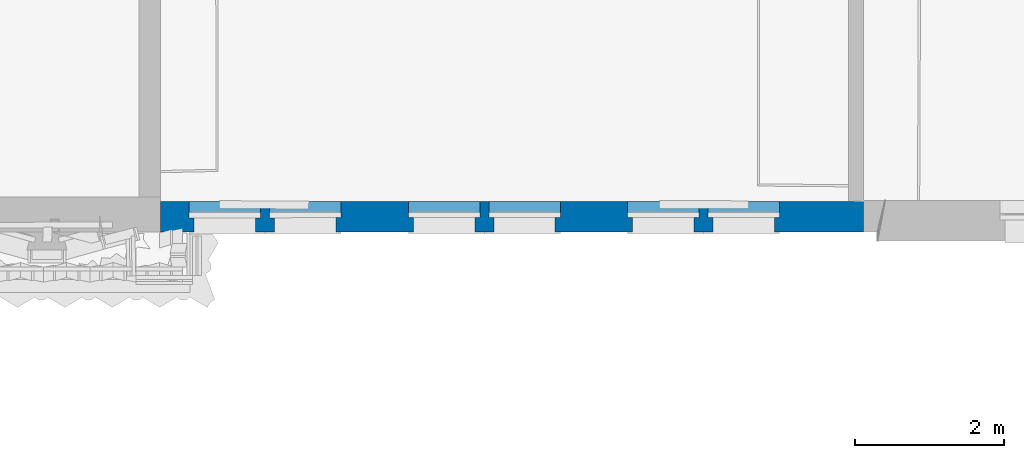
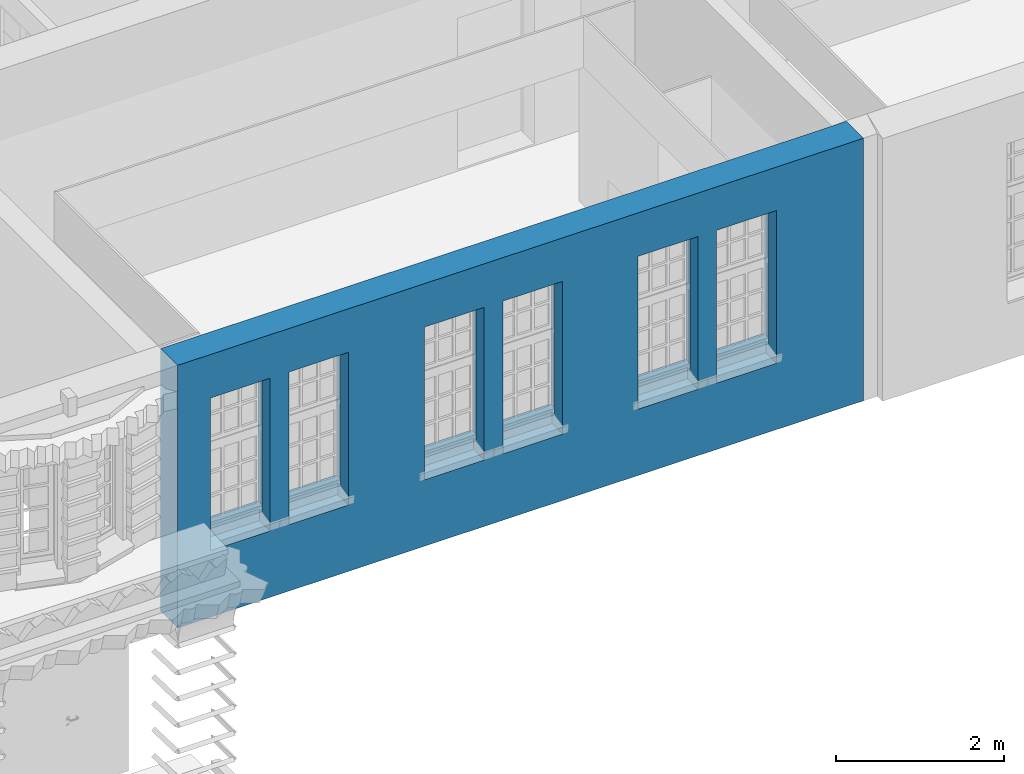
# One storey, part 29 of 158: 1 wall, 9 openings.
"""IFC2X3 building model written with IfcOpenShell, lengths in metres."""

from ifc_helpers import new_model, entity, si_unit, converted_unit, derived_unit, money_unit, direction, frame, origin_with_axes, origin_2d_with_axis, place, context, subcontext, project, spatial, polyline, rectangle, outline, extrude, material, layer, layer_set, layer_usage, type_object, element, save


model = new_model("IFC2X3")

# Units and contexts
model_context = context("Model", 3, precision=1e-05, world=origin_with_axes(), true_north=direction((0.0, 1.0)))
body_context = subcontext(model_context, "Body", "Model", "MODEL_VIEW")
ifc_project = project(units=[si_unit("LENGTHUNIT", "METRE"), si_unit("AREAUNIT", "SQUARE_METRE"), si_unit("VOLUMEUNIT", "CUBIC_METRE"), converted_unit("PLANEANGLEUNIT", "DEGREE", entity("IfcPlaneAngleMeasure", 0.0174532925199), si_unit("PLANEANGLEUNIT", "RADIAN"), dimensions=[0, 0, 0, 0, 0, 0, 0]), money_unit("EUR"), converted_unit("TIMEUNIT", "Year", entity("IfcTimeMeasure", 31556926.0), si_unit("TIMEUNIT", "SECOND"), dimensions=[0, 0, 1, 0, 0, 0, 0]), si_unit("MASSUNIT", "GRAM", prefix="KILO"), si_unit("THERMODYNAMICTEMPERATUREUNIT", "DEGREE_CELSIUS"), si_unit("LUMINOUSINTENSITYUNIT", "LUMEN"), si_unit("ENERGYUNIT", "JOULE", prefix="MEGA"), derived_unit("THERMALCONDUCTANCEUNIT", [(si_unit("POWERUNIT", "WATT"), 1), (si_unit("LENGTHUNIT", "METRE"), -1), (si_unit("THERMODYNAMICTEMPERATUREUNIT", "KELVIN"), -1)]), derived_unit("SPECIFICHEATCAPACITYUNIT", [(si_unit("ENERGYUNIT", "JOULE"), 1), (si_unit("MASSUNIT", "GRAM", prefix="KILO"), -1), (si_unit("THERMODYNAMICTEMPERATUREUNIT", "KELVIN"), -1)]), derived_unit("MASSDENSITYUNIT", [(si_unit("MASSUNIT", "GRAM", prefix="KILO"), 1), (si_unit("VOLUMEUNIT", "CUBIC_METRE"), -1)])], contexts=[model_context])

# Site, building, storey
site_placement = place(None, origin_with_axes())
site = spatial("IfcSite", under=ifc_project, at=site_placement, Name="Gelände", CompositionType="ELEMENT")
building_placement = place(site_placement, origin_with_axes())
building = spatial("IfcBuilding", under=site, at=building_placement, Name="Gebäude", CompositionType="ELEMENT")
storey_placement = place(building_placement, origin_with_axes())
storey = spatial("IfcBuildingStorey", under=building, at=storey_placement, Name="ERDGESCHOSS", CompositionType="ELEMENT", Elevation=0.0)

# Wall, openings
ifc_material = material(Name="05_ALLGEMEIN - TRAGENDE BAUTEILE")
ifc_layer = layer(ifc_material, 0.405, ventilated="UNKNOWN")
ifc_layer_set = layer_set([ifc_layer], Name="05_ALLGEMEIN - TRAGENDE BAUTEILE 0.405")
ifc_layer_usage = layer_usage(ifc_layer_set, "AXIS2", "NEGATIVE", 0.405)
wall_type = type_object("IfcWallType", Name="05_ALLGEMEIN - TRAGENDE BAUTEILE 405", PredefinedType="ELEMENTEDWALL")
wall_placement = place(storey_placement, frame((-5.85691795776, 9.99487104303, -0.21), z_axis=(0.0, 0.0, 1.0), x_axis=(0.999999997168, 7.52624069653e-05, 0.0)))
wall = element("IfcWallStandardCase", 1, at=wall_placement, inside=storey, type_object=wall_type, material=ifc_layer_usage, Name="Wand-030", ObjectType="ELEMENTEDWALL", context=body_context, shape_type="SweptSolid", body=[
    extrude(outline(polyline([(0.0, 0.0), (9.41202264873, 0.0), (9.41202264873, 0.405), (0.0, 0.405), (0.0, 0.0)])), origin_with_axes(), (0.0, 0.0, 1.0), 3.81),
])
opening_1_placement = place(wall_placement, frame((7.26746916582, 0.0, 0.13), z_axis=(0.0, 0.0, 1.0), x_axis=(1.0, 0.0, 0.0)))
element("IfcOpeningElement", 2, at=opening_1_placement, cuts=wall, Name="Fenster-016", ObjectType="Recess", context=body_context, shape_type="SweptSolid", body=[
    extrude(rectangle(XDim=2.09839090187, YDim=0.995594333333, at=origin_2d_with_axis()), frame((0.0, 0.277122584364, 0.497797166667), z_axis=(0.0, -1.0, 0.0), x_axis=(1.0, 0.0, 0.0)), (0.0, 0.0, -1.0), 0.532877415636),
])
opening_2_placement = place(wall_placement, frame((4.34936517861, 0.0, 0.13), z_axis=(0.0, 0.0, 1.0), x_axis=(1.0, 0.0, 0.0)))
element("IfcOpeningElement", 3, at=opening_2_placement, cuts=wall, Name="Fenster-016", ObjectType="Recess", context=body_context, shape_type="SweptSolid", body=[
    extrude(rectangle(XDim=2.09839090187, YDim=0.995594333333, at=origin_2d_with_axis()), frame((0.0, 0.277122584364, 0.497797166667), z_axis=(0.0, -1.0, 0.0), x_axis=(1.0, 0.0, 0.0)), (0.0, 0.0, -1.0), 0.532877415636),
])
opening_3_placement = place(wall_placement, frame((1.38676398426, 0.0, 0.13), z_axis=(0.0, 0.0, 1.0), x_axis=(1.0, 0.0, 0.0)))
element("IfcOpeningElement", 4, at=opening_3_placement, cuts=wall, Name="Fenster-016", ObjectType="Recess", context=body_context, shape_type="SweptSolid", body=[
    extrude(rectangle(XDim=2.09839090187, YDim=0.995594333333, at=origin_2d_with_axis()), frame((0.0, 0.277122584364, 0.497797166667), z_axis=(0.0, -1.0, 0.0), x_axis=(1.0, 0.0, 0.0)), (0.0, 0.0, -1.0), 0.532877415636),
])
opening_4_placement = place(wall_placement, frame((7.80824840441, 0.0, 1.1302125), z_axis=(0.0, 0.0, 1.0), x_axis=(1.0, 0.0, 0.0)))
element("IfcOpeningElement", 5, at=opening_4_placement, cuts=wall, Name="Fenster-015", context=body_context, shape_type="SweptSolid", body=[
    extrude(rectangle(XDim=0.96, YDim=2.118657, at=origin_2d_with_axis()), frame((0.0, 0.19, 1.0593285), z_axis=(0.0, 1.0, 0.0), x_axis=(-1.0, 0.0, 0.0)), (0.0, 0.0, 1.0), 0.62),
    extrude(rectangle(XDim=0.82, YDim=2.048657, at=origin_2d_with_axis()), frame((0.0, 0.19, 1.0243285), z_axis=(0.0, -1.0, 0.0), x_axis=(-1.0, 0.0, 0.0)), (0.0, 0.0, 1.0), 0.595),
    extrude(rectangle(XDim=0.82, YDim=0.167317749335, at=origin_2d_with_axis()), frame((0.0, 0.251042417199, -0.0836588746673), z_axis=(0.0, -1.0, 0.0), x_axis=(-1.0, 0.0, 0.0)), (0.0, 0.0, 1.0), 0.466042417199),
])
opening_5_placement = place(wall_placement, frame((6.73072813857, 0.0, 1.1302125), z_axis=(0.0, 0.0, 1.0), x_axis=(1.0, 0.0, 0.0)))
element("IfcOpeningElement", 6, at=opening_5_placement, cuts=wall, Name="Fenster-015", context=body_context, shape_type="SweptSolid", body=[
    extrude(rectangle(XDim=0.96, YDim=2.118657, at=origin_2d_with_axis()), frame((0.0, 0.19, 1.0593285), z_axis=(0.0, 1.0, 0.0), x_axis=(-1.0, 0.0, 0.0)), (0.0, 0.0, 1.0), 0.62),
    extrude(rectangle(XDim=0.82, YDim=2.048657, at=origin_2d_with_axis()), frame((0.0, 0.19, 1.0243285), z_axis=(0.0, -1.0, 0.0), x_axis=(-1.0, 0.0, 0.0)), (0.0, 0.0, 1.0), 0.595),
    extrude(rectangle(XDim=0.82, YDim=0.167317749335, at=origin_2d_with_axis()), frame((0.0, 0.251042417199, -0.0836588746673), z_axis=(0.0, -1.0, 0.0), x_axis=(-1.0, 0.0, 0.0)), (0.0, 0.0, 1.0), 0.466042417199),
])
opening_6_placement = place(wall_placement, frame((4.87506506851, 0.0, 1.1302125), z_axis=(0.0, 0.0, 1.0), x_axis=(1.0, 0.0, 0.0)))
element("IfcOpeningElement", 7, at=opening_6_placement, cuts=wall, Name="Fenster-015", context=body_context, shape_type="SweptSolid", body=[
    extrude(rectangle(XDim=0.96, YDim=2.118657, at=origin_2d_with_axis()), frame((0.0, 0.19, 1.0593285), z_axis=(0.0, 1.0, 0.0), x_axis=(-1.0, 0.0, 0.0)), (0.0, 0.0, 1.0), 0.62),
    extrude(rectangle(XDim=0.82, YDim=2.048657, at=origin_2d_with_axis()), frame((0.0, 0.19, 1.0243285), z_axis=(0.0, -1.0, 0.0), x_axis=(-1.0, 0.0, 0.0)), (0.0, 0.0, 1.0), 0.595),
    extrude(rectangle(XDim=0.82, YDim=0.167317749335, at=origin_2d_with_axis()), frame((0.0, 0.251042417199, -0.0836588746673), z_axis=(0.0, -1.0, 0.0), x_axis=(-1.0, 0.0, 0.0)), (0.0, 0.0, 1.0), 0.466042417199),
])
opening_7_placement = place(wall_placement, frame((3.79754480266, 0.0, 1.1302125), z_axis=(0.0, 0.0, 1.0), x_axis=(1.0, 0.0, 0.0)))
element("IfcOpeningElement", 8, at=opening_7_placement, cuts=wall, Name="Fenster-015", context=body_context, shape_type="SweptSolid", body=[
    extrude(rectangle(XDim=0.96, YDim=2.118657, at=origin_2d_with_axis()), frame((0.0, 0.19, 1.0593285), z_axis=(0.0, 1.0, 0.0), x_axis=(-1.0, 0.0, 0.0)), (0.0, 0.0, 1.0), 0.62),
    extrude(rectangle(XDim=0.82, YDim=2.048657, at=origin_2d_with_axis()), frame((0.0, 0.19, 1.0243285), z_axis=(0.0, -1.0, 0.0), x_axis=(-1.0, 0.0, 0.0)), (0.0, 0.0, 1.0), 0.595),
    extrude(rectangle(XDim=0.82, YDim=0.167317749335, at=origin_2d_with_axis()), frame((0.0, 0.251042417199, -0.0836588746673), z_axis=(0.0, -1.0, 0.0), x_axis=(-1.0, 0.0, 0.0)), (0.0, 0.0, 1.0), 0.466042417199),
])
opening_8_placement = place(wall_placement, frame((1.93618697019, 0.0, 1.1302125), z_axis=(0.0, 0.0, 1.0), x_axis=(1.0, 0.0, 0.0)))
element("IfcOpeningElement", 9, at=opening_8_placement, cuts=wall, Name="Fenster-015", context=body_context, shape_type="SweptSolid", body=[
    extrude(rectangle(XDim=0.96, YDim=2.118657, at=origin_2d_with_axis()), frame((0.0, 0.19, 1.0593285), z_axis=(0.0, 1.0, 0.0), x_axis=(-1.0, 0.0, 0.0)), (0.0, 0.0, 1.0), 0.62),
    extrude(rectangle(XDim=0.82, YDim=2.048657, at=origin_2d_with_axis()), frame((0.0, 0.19, 1.0243285), z_axis=(0.0, -1.0, 0.0), x_axis=(-1.0, 0.0, 0.0)), (0.0, 0.0, 1.0), 0.595),
    extrude(rectangle(XDim=0.82, YDim=0.167317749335, at=origin_2d_with_axis()), frame((0.0, 0.251042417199, -0.0836588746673), z_axis=(0.0, -1.0, 0.0), x_axis=(-1.0, 0.0, 0.0)), (0.0, 0.0, 1.0), 0.466042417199),
])
opening_9_placement = place(wall_placement, frame((0.858666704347, 0.0, 1.1302125), z_axis=(0.0, 0.0, 1.0), x_axis=(1.0, 0.0, 0.0)))
element("IfcOpeningElement", 10, at=opening_9_placement, cuts=wall, Name="Fenster-015", context=body_context, shape_type="SweptSolid", body=[
    extrude(rectangle(XDim=0.96, YDim=2.118657, at=origin_2d_with_axis()), frame((0.0, 0.19, 1.0593285), z_axis=(0.0, 1.0, 0.0), x_axis=(-1.0, 0.0, 0.0)), (0.0, 0.0, 1.0), 0.62),
    extrude(rectangle(XDim=0.82, YDim=2.048657, at=origin_2d_with_axis()), frame((0.0, 0.19, 1.0243285), z_axis=(0.0, -1.0, 0.0), x_axis=(-1.0, 0.0, 0.0)), (0.0, 0.0, 1.0), 0.595),
    extrude(rectangle(XDim=0.82, YDim=0.167317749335, at=origin_2d_with_axis()), frame((0.0, 0.251042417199, -0.0836588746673), z_axis=(0.0, -1.0, 0.0), x_axis=(-1.0, 0.0, 0.0)), (0.0, 0.0, 1.0), 0.466042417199),
])

save(model, "model.ifc")
